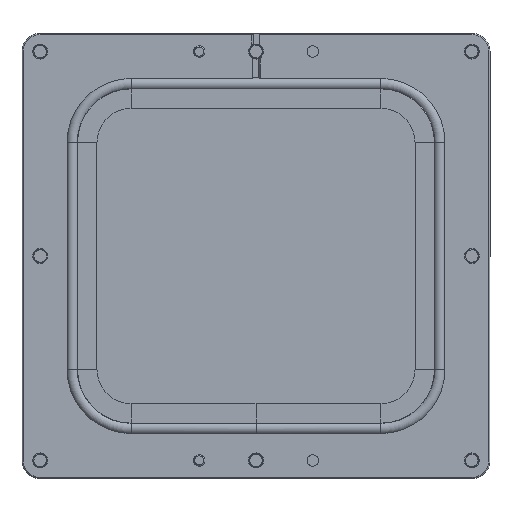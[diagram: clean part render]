
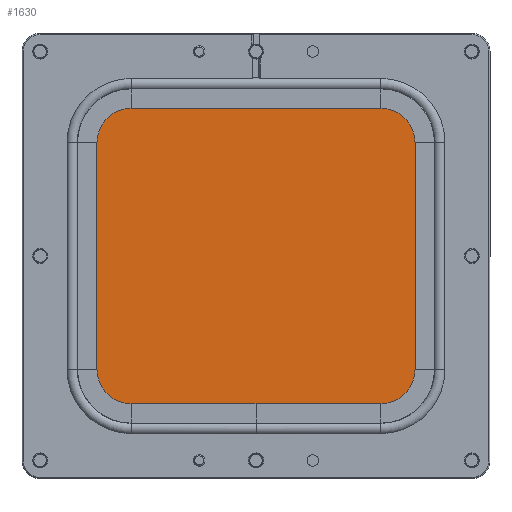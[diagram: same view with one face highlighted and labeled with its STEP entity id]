
A CAD part, front view. The second image highlights one B-rep face of the part: STEP entity #1630.
In plain terms, the highlighted planar face has unit normal (0, -1, 0).
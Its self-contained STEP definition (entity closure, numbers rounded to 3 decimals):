
#13 = CIRCLE ( 'NONE', #7982, 27.6 ) ;
#455 = CARTESIAN_POINT ( 'NONE',  ( 82.6, 0., -50. ) ) ;
#516 = DIRECTION ( 'NONE',  ( 0., 0., -1. ) ) ;
#523 = CARTESIAN_POINT ( 'NONE',  ( -55., 0., 77.6 ) ) ;
#1201 = EDGE_CURVE ( 'NONE', #11244, #3230, #10100, .T. ) ;
#1313 = EDGE_CURVE ( 'NONE', #4290, #10721, #11179, .T. ) ;
#1377 = VECTOR ( 'NONE', #2239, 1000. ) ;
#1444 = CARTESIAN_POINT ( 'NONE',  ( -55., 0., -50. ) ) ;
#1473 = EDGE_CURVE ( 'NONE', #3230, #10511, #13, .T. ) ;
#1605 = VERTEX_POINT ( 'NONE', #2309 ) ;
#1630 = ADVANCED_FACE ( 'NONE', ( #10779 ), #1652, .F. ) ;
#1650 = EDGE_CURVE ( 'NONE', #5646, #1605, #10627, .T. ) ;
#1652 = PLANE ( 'NONE',  #5126 ) ;
#2239 = DIRECTION ( 'NONE',  ( -1., 0., 0. ) ) ;
#2309 = CARTESIAN_POINT ( 'NONE',  ( 82.6, 0., 50. ) ) ;
#2492 = DIRECTION ( 'NONE',  ( 0., 0., 1. ) ) ;
#2525 = DIRECTION ( 'NONE',  ( 0., 1., 0. ) ) ;
#2610 = CARTESIAN_POINT ( 'NONE',  ( -82.6, 0., -50. ) ) ;
#3021 = AXIS2_PLACEMENT_3D ( 'NONE', #1444, #10096, #6659 ) ;
#3230 = VERTEX_POINT ( 'NONE', #10938 ) ;
#3293 = CARTESIAN_POINT ( 'NONE',  ( 82.6, 0., 50. ) ) ;
#3354 = CARTESIAN_POINT ( 'NONE',  ( 55., 0., 50. ) ) ;
#3453 = ORIENTED_EDGE ( 'NONE', *, *, #9154, .T. ) ;
#3619 = CARTESIAN_POINT ( 'NONE',  ( 55., 0., 77.6 ) ) ;
#3665 = DIRECTION ( 'NONE',  ( 0., -1., 0. ) ) ;
#3687 = CIRCLE ( 'NONE', #3021, 27.6 ) ;
#4063 = CARTESIAN_POINT ( 'NONE',  ( 55., 0., -50. ) ) ;
#4077 = VECTOR ( 'NONE', #4263, 1000. ) ;
#4127 = LINE ( 'NONE', #10959, #7555 ) ;
#4148 = DIRECTION ( 'NONE',  ( 0., 0., 1. ) ) ;
#4263 = DIRECTION ( 'NONE',  ( 1., 0., 0. ) ) ;
#4290 = VERTEX_POINT ( 'NONE', #7757 ) ;
#4374 = AXIS2_PLACEMENT_3D ( 'NONE', #3354, #7693, #7581 ) ;
#4670 = ORIENTED_EDGE ( 'NONE', *, *, #1473, .T. ) ;
#5126 = AXIS2_PLACEMENT_3D ( 'NONE', #7779, #2525, #4148 ) ;
#5271 = CIRCLE ( 'NONE', #4374, 27.6 ) ;
#5646 = VERTEX_POINT ( 'NONE', #455 ) ;
#5920 = ORIENTED_EDGE ( 'NONE', *, *, #1201, .T. ) ;
#6157 = EDGE_CURVE ( 'NONE', #10511, #9390, #4127, .T. ) ;
#6659 = DIRECTION ( 'NONE',  ( 0., 0., 1. ) ) ;
#6821 = EDGE_CURVE ( 'NONE', #10721, #5646, #8228, .T. ) ;
#7127 = DIRECTION ( 'NONE',  ( 0., 0., 1. ) ) ;
#7555 = VECTOR ( 'NONE', #516, 1000. ) ;
#7573 = ORIENTED_EDGE ( 'NONE', *, *, #6157, .T. ) ;
#7581 = DIRECTION ( 'NONE',  ( 0., 0., 1. ) ) ;
#7633 = VECTOR ( 'NONE', #2492, 1000. ) ;
#7693 = DIRECTION ( 'NONE',  ( 0., -1., 0. ) ) ;
#7757 = CARTESIAN_POINT ( 'NONE',  ( -55., 0., -77.6 ) ) ;
#7774 = EDGE_CURVE ( 'NONE', #1605, #11244, #5271, .T. ) ;
#7779 = CARTESIAN_POINT ( 'NONE',  ( -55., 0., 50. ) ) ;
#7958 = ORIENTED_EDGE ( 'NONE', *, *, #7774, .T. ) ;
#7982 = AXIS2_PLACEMENT_3D ( 'NONE', #9006, #3665, #7127 ) ;
#8168 = CARTESIAN_POINT ( 'NONE',  ( -82.6, 0., 50. ) ) ;
#8228 = CIRCLE ( 'NONE', #8405, 27.6 ) ;
#8405 = AXIS2_PLACEMENT_3D ( 'NONE', #4063, #11059, #9754 ) ;
#8764 = ORIENTED_EDGE ( 'NONE', *, *, #1313, .T. ) ;
#9006 = CARTESIAN_POINT ( 'NONE',  ( -55., 0., 50. ) ) ;
#9154 = EDGE_CURVE ( 'NONE', #9390, #4290, #3687, .T. ) ;
#9390 = VERTEX_POINT ( 'NONE', #2610 ) ;
#9619 = ORIENTED_EDGE ( 'NONE', *, *, #1650, .T. ) ;
#9754 = DIRECTION ( 'NONE',  ( 0., 0., 1. ) ) ;
#10037 = EDGE_LOOP ( 'NONE', ( #3453, #8764, #10492, #9619, #7958, #5920, #4670, #7573 ) ) ;
#10096 = DIRECTION ( 'NONE',  ( 0., -1., 0. ) ) ;
#10100 = LINE ( 'NONE', #523, #1377 ) ;
#10346 = CARTESIAN_POINT ( 'NONE',  ( -55., 0., -77.6 ) ) ;
#10492 = ORIENTED_EDGE ( 'NONE', *, *, #6821, .T. ) ;
#10511 = VERTEX_POINT ( 'NONE', #8168 ) ;
#10627 = LINE ( 'NONE', #3293, #7633 ) ;
#10721 = VERTEX_POINT ( 'NONE', #10832 ) ;
#10779 = FACE_OUTER_BOUND ( 'NONE', #10037, .T. ) ;
#10832 = CARTESIAN_POINT ( 'NONE',  ( 55., 0., -77.6 ) ) ;
#10938 = CARTESIAN_POINT ( 'NONE',  ( -55., 0., 77.6 ) ) ;
#10959 = CARTESIAN_POINT ( 'NONE',  ( -82.6, 0., 50. ) ) ;
#11059 = DIRECTION ( 'NONE',  ( 0., -1., 0. ) ) ;
#11179 = LINE ( 'NONE', #10346, #4077 ) ;
#11244 = VERTEX_POINT ( 'NONE', #3619 ) ;
